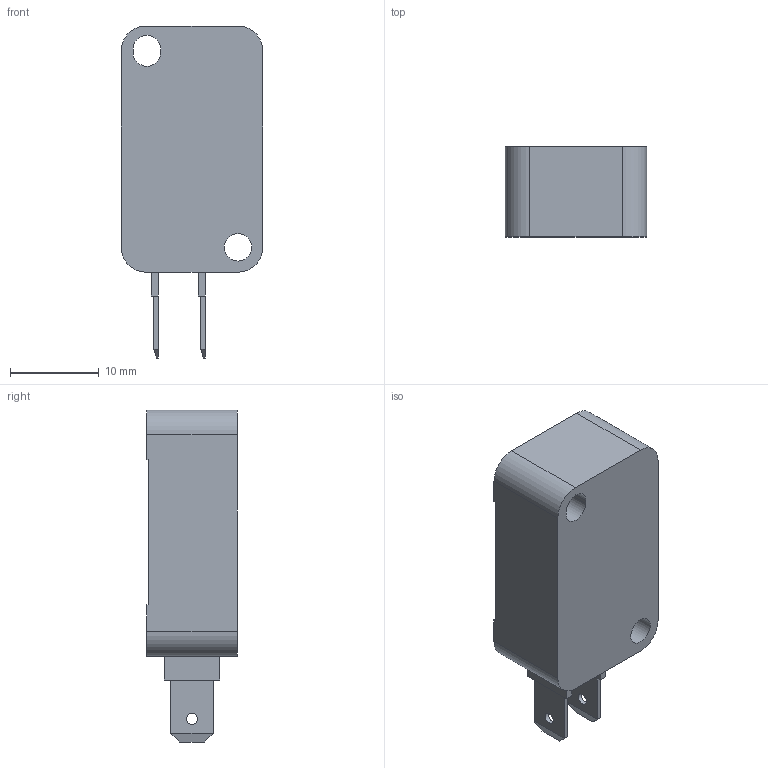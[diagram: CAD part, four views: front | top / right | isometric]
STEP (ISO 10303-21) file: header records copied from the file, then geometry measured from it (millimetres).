
FILE_DESCRIPTION( ( 'Unknown' ), '1' );
FILE_NAME( '//baumerholding.org/frauenfeld/bereich/BECH/Services/me_CAD/Solid Edge/Models/Dokumentationen/Induktiv/IxFx 10/Vereinfachte Modelle/Neutralformate/IFFK 10E9101.stp', 'Unknown', ( 'Unknown' ), ( 'Unknown' ), 'XStep 1.0', 'Unknown', ' ' );
FILE_SCHEMA( ( 'CONFIG_CONTROL_DESIGN' ) );
Length unit declared in the file: millimetre
Products named in the file (1): 1
Bounding box: 16 x 10.2 x 37.5 mm (x, y, z)
Volume: 4305.4 mm3; surface area: 2112.3 mm2
Topology: 1 solids, 1 shells, 47 faces, 125 edges, 83 vertices
Faces by surface type: plane 37, cylinder 10
Full cylindrical faces by diameter (mm): 1.3 x2, 3.1 x1, 6 x1
Entity records: 1464 total; most frequent: CARTESIAN_POINT 246, ORIENTED_EDGE 236, DIRECTION 234, EDGE_CURVE 118, LINE 98, VECTOR 98, VERTEX_POINT 80, AXIS2_PLACEMENT_3D 68
